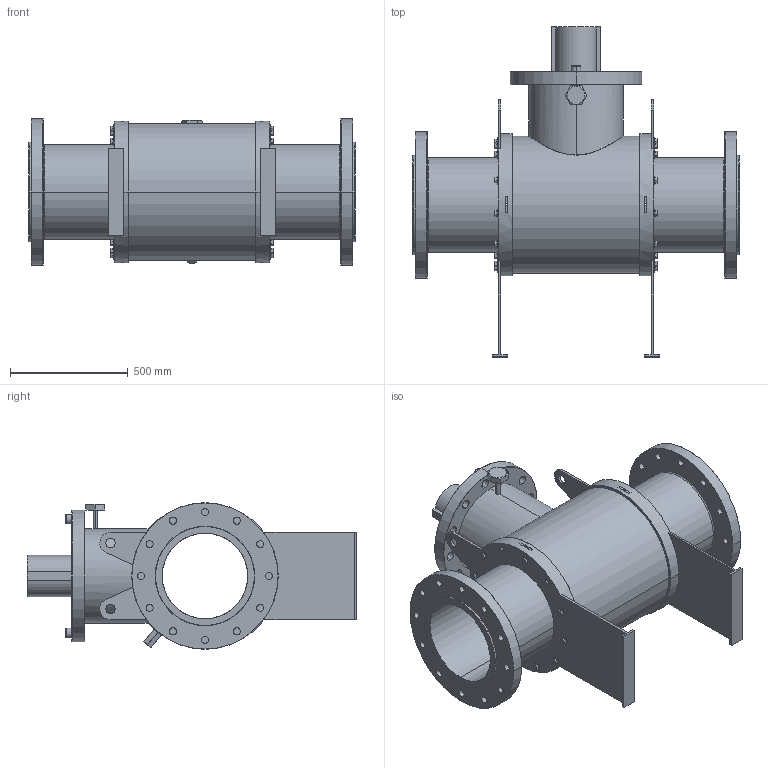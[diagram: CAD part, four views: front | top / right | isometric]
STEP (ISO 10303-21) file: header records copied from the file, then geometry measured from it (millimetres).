
FILE_DESCRIPTION (( 'STEP AP214' ), '1' );
FILE_NAME ('GB2_ANSI_1500_16IN_TW.STEP', '2025-10-06T20:15:09', ( '' ), ( '' ), 'SwSTEP 2.0', 'SolidWorks 2023', '' );
FILE_SCHEMA (( 'AUTOMOTIVE_DESIGN' ));
Length unit declared in the file: millimetre
Products named in the file (3): GB2_ANSI_1500_16IN_TW; GB2_ANSI_2500_1500_ANSI_1500_16IN; hex flange screw_am_B18.2.3.4M - Hex flange screw, M16 x 2.0 x 25 --25N
Assembly tree (25 placements, depth 2):
  GB2_ANSI_1500_16IN_TW
    GB2_ANSI_2500_1500_ANSI_1500_16IN
    hex flange screw_am_B18.2.3.4M - Hex flange screw, M16 x 2.0 x 25 --25N  x24
Bounding box: 1384 x 1400 x 622 mm (x, y, z)
Volume: 196061600.1 mm3; surface area: 6726326.4 mm2
Topology: 25 solids, 25 shells, 1051 faces, 2358 edges, 1412 vertices
Faces by surface type: plane 327, cone 270, cylinder 238, bspline 156, torus 54, sphere 6
Entity records: 13680 total; most frequent: CARTESIAN_POINT 4114, DIRECTION 2098, ORIENTED_EDGE 1856, EDGE_CURVE 928, AXIS2_PLACEMENT_3D 854, VERTEX_POINT 582, EDGE_LOOP 508, CIRCLE 460
